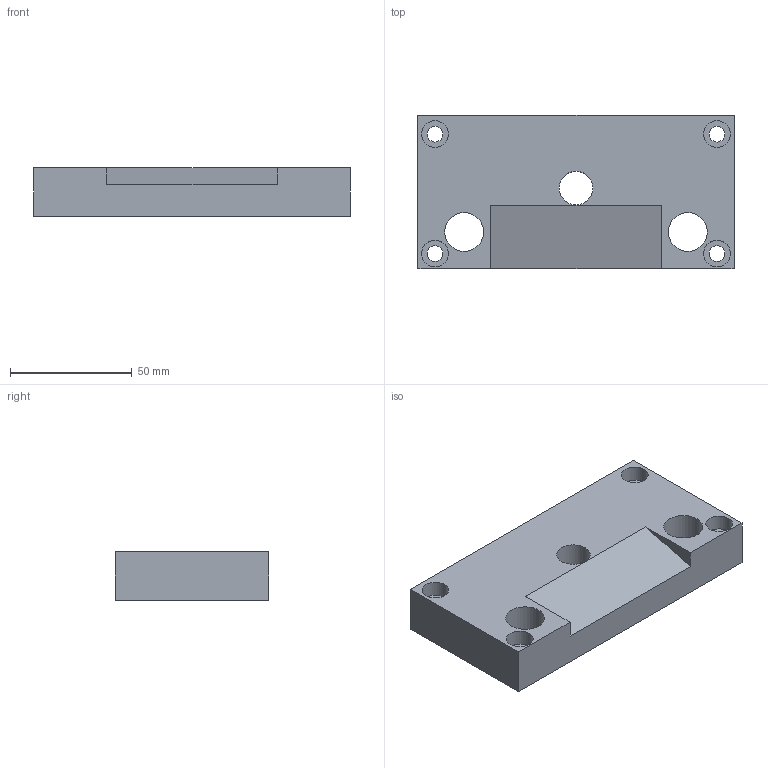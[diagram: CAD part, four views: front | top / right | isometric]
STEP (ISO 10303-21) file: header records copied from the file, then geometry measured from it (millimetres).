
FILE_DESCRIPTION( ( 'Unknown' ), '1' );
FILE_NAME( 'C:/Drawings/CDP/Support Bracket 91 Pitch And Shaft Support/Loose Support and 300 Shaft Support/Tooldrawings/Top Core Plate.stp', 'Unknown', ( 'Unknown' ), ( 'Unknown' ), 'XStep 1.0', 'Unknown', ' ' );
FILE_SCHEMA( ( 'CONFIG_CONTROL_DESIGN' ) );
Length unit declared in the file: millimetre
Products named in the file (1): 1
Bounding box: 130 x 63.11 x 20 mm (x, y, z)
Volume: 141401.3 mm3; surface area: 27514.5 mm2
Topology: 1 solids, 1 shells, 28 faces, 65 edges, 45 vertices
Faces by surface type: plane 15, cylinder 13
Full cylindrical faces by diameter (mm): 6.5 x4, 11 x4, 13.835 x1, 16 x2, 20.5 x2
Entity records: 777 total; most frequent: DIRECTION 131, CARTESIAN_POINT 116, ORIENTED_EDGE 94, EDGE_LOOP 61, AXIS2_PLACEMENT_3D 55, EDGE_CURVE 47, FACE_OUTER_BOUND 41, VERTEX_POINT 40
